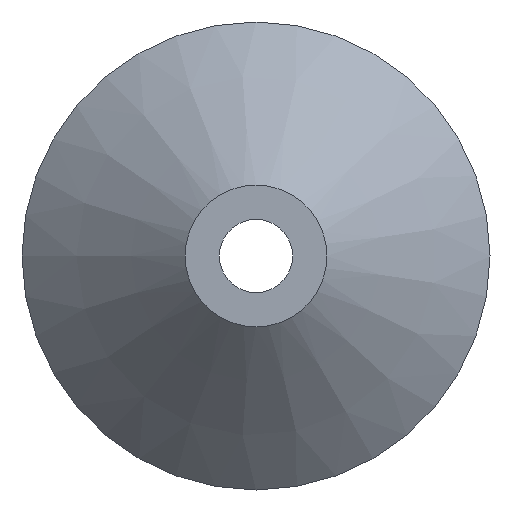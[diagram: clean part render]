
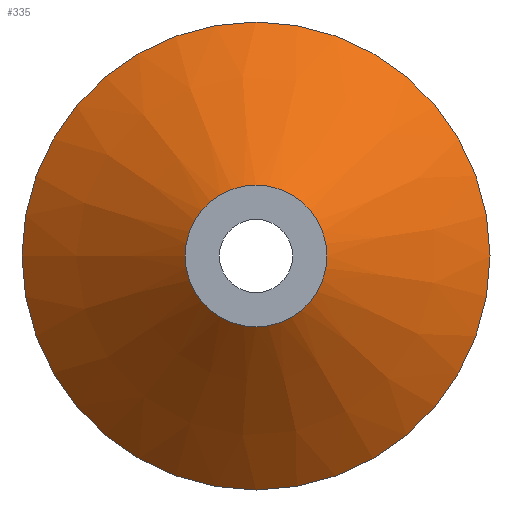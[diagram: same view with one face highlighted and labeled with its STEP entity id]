
A CAD part, front view. The second image highlights one B-rep face of the part: STEP entity #335.
In plain terms, the highlighted conical face has half-angle 48.555 degrees and reference radius 32.5 mm.
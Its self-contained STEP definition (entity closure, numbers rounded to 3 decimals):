
#29=CONICAL_SURFACE('',#384,32.5,0.847);
#49=FACE_OUTER_BOUND('',#72,.T.);
#72=EDGE_LOOP('',(#300,#301,#302,#303));
#82=CIRCLE('',#368,9.85);
#88=CIRCLE('',#383,32.5);
#119=LINE('',#1774,#132);
#132=VECTOR('',#470,32.5);
#156=VERTEX_POINT('',#706);
#162=VERTEX_POINT('',#1770);
#190=EDGE_CURVE('',#156,#156,#82,.T.);
#208=EDGE_CURVE('',#162,#162,#88,.T.);
#209=EDGE_CURVE('',#156,#162,#119,.T.);
#300=ORIENTED_EDGE('',*,*,#190,.T.);
#301=ORIENTED_EDGE('',*,*,#209,.T.);
#302=ORIENTED_EDGE('',*,*,#208,.F.);
#303=ORIENTED_EDGE('',*,*,#209,.F.);
#335=ADVANCED_FACE('',(#49),#29,.T.);
#368=AXIS2_PLACEMENT_3D('',#708,#432,#433);
#383=AXIS2_PLACEMENT_3D('',#1772,#466,#467);
#384=AXIS2_PLACEMENT_3D('',#1773,#468,#469);
#432=DIRECTION('center_axis',(0.,1.,0.));
#433=DIRECTION('ref_axis',(1.,0.,0.));
#466=DIRECTION('center_axis',(0.,1.,0.));
#467=DIRECTION('ref_axis',(1.,0.,0.));
#468=DIRECTION('center_axis',(0.,1.,0.));
#469=DIRECTION('ref_axis',(1.,0.,0.));
#470=DIRECTION('',(-0.75,0.662,0.));
#706=CARTESIAN_POINT('',(-9.85,-19.534,0.));
#708=CARTESIAN_POINT('Origin',(0.,-19.534,0.));
#1770=CARTESIAN_POINT('',(-32.5,0.466,0.));
#1772=CARTESIAN_POINT('Origin',(0.,0.466,0.));
#1773=CARTESIAN_POINT('Origin',(0.,0.466,0.));
#1774=CARTESIAN_POINT('',(-32.5,0.466,0.));
